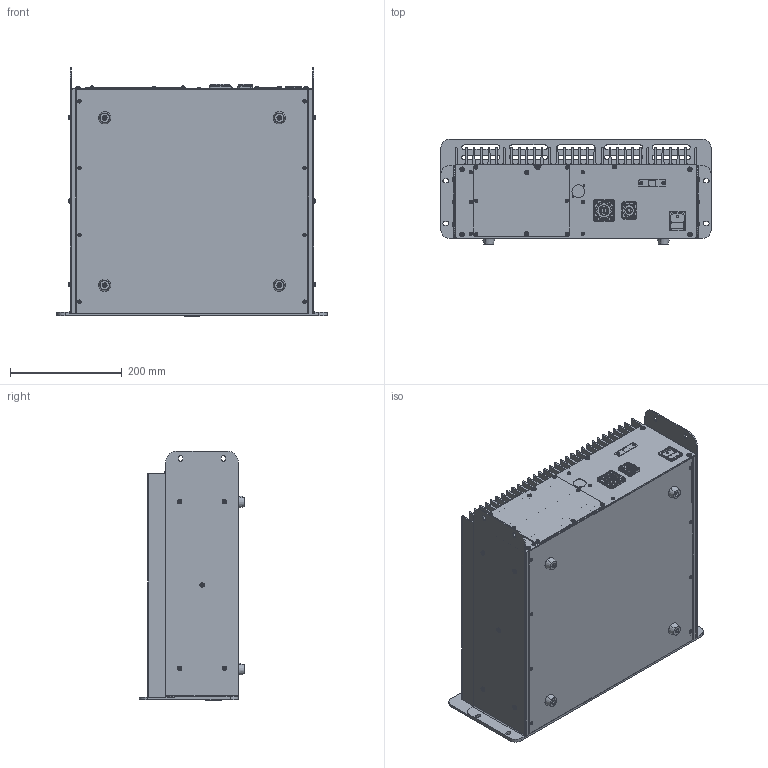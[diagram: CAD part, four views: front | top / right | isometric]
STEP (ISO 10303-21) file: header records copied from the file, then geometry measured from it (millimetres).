
FILE_DESCRIPTION (( 'STEP AP214' ), '1' );
FILE_NAME ('AMPLI_MAIN_112_212.STEP', '2023-12-21T13:28:34', ( '' ), ( '' ), 'SwSTEP 2.0', 'SolidWorks 2022', '' );
FILE_SCHEMA (( 'AUTOMOTIVE_DESIGN' ));
Length unit declared in the file: millimetre
Products named in the file (1): AMPLI_MAIN_112_212
Bounding box: 482.6 x 188 x 446 mm (x, y, z)
Surface area: 1435162.4 mm2 (no closed solid volume)
Topology: 0 solids, 119 shells, 5334 faces, 14229 edges, 9108 vertices
Faces by surface type: plane 2215, cylinder 1386, cone 692, bspline 537, torus 316, sphere 188
Entity records: 252192 total; most frequent: CARTESIAN_POINT 70219, ORIENTED_EDGE 28020, DIRECTION 22969, EDGE_CURVE 14096, VERTEX_POINT 9108, AXIS2_PLACEMENT_3D 8645, EDGE_LOOP 5735, VECTOR 5679
